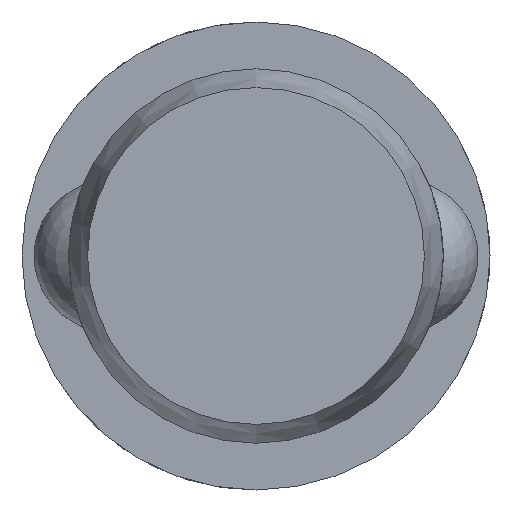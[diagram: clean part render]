
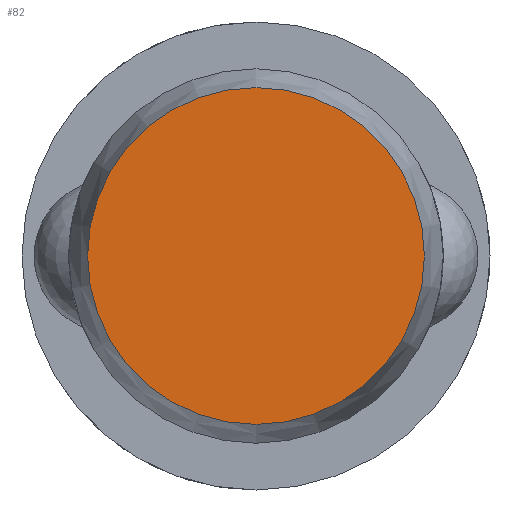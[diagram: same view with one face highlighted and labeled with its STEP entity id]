
A CAD part, left-side view. The second image highlights one B-rep face of the part: STEP entity #82.
In plain terms, the highlighted planar face has unit normal (-1, 0, 0).
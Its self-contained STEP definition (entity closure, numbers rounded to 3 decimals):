
#82 = ADVANCED_FACE( '', ( #120 ), #121, .F. );
#120 = FACE_OUTER_BOUND( '', #191, .T. );
#121 = PLANE( '', #192 );
#191 = EDGE_LOOP( '', ( #301 ) );
#192 = AXIS2_PLACEMENT_3D( '', #302, #303, #304 );
#301 = ORIENTED_EDGE( '', *, *, #456, .F. );
#302 = CARTESIAN_POINT( '', ( 0., 0., 0. ) );
#303 = DIRECTION( '', ( 1., 0., 0. ) );
#304 = DIRECTION( '', ( 0., 0., -1. ) );
#456 = EDGE_CURVE( '', #528, #528, #529, .T. );
#528 = VERTEX_POINT( '', #738 );
#529 = CIRCLE( '', #739, 7.196 );
#738 = CARTESIAN_POINT( '', ( 0., 0., -7.196 ) );
#739 = AXIS2_PLACEMENT_3D( '', #942, #943, #944 );
#942 = CARTESIAN_POINT( '', ( 0., 0., 0. ) );
#943 = DIRECTION( '', ( 1., 0., 0. ) );
#944 = DIRECTION( '', ( 0., 0., -1. ) );
